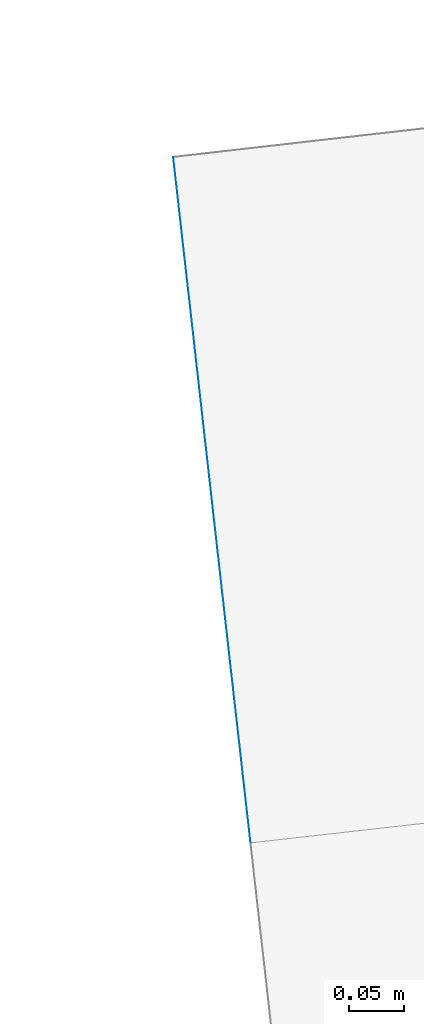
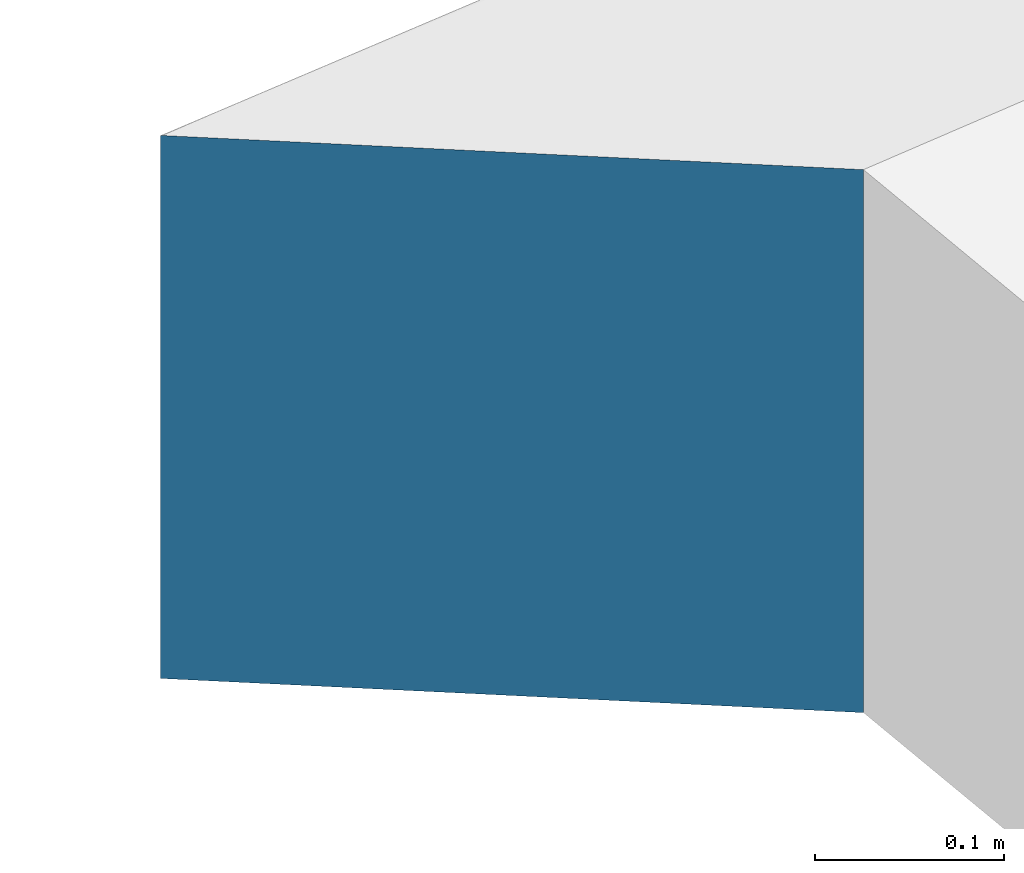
# Not in any storey, part 48 of 57: 2 walls.
"""IFC2X3 building model written with IfcOpenShell, lengths in metres."""

from ifc_helpers import new_model, entity, si_unit, converted_unit, frame, origin, place, context, subcontext, project, spatial, face_set, surface_model, element, save


model = new_model("IFC2X3")

# Units and contexts
model_context = context("Model", 3, precision=1e-05, world=origin())
body_context = subcontext(model_context, "Body", "Model", "MODEL_VIEW")
ifc_project = project(units=[converted_unit("PLANEANGLEUNIT", "DEGREE", entity("IfcRatioMeasure", 0.0174532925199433), si_unit("PLANEANGLEUNIT", "RADIAN"), dimensions=[0, 0, 0, 0, 0, 0, 0]), si_unit("AREAUNIT", "SQUARE_METRE"), si_unit("LENGTHUNIT", "METRE")], contexts=[model_context])

# Site, building
site_placement = place(None, origin())
site = spatial("IfcSite", under=ifc_project, at=site_placement, Name="_site", CompositionType="ELEMENT")
building_placement = place(site_placement, origin())
building = spatial("IfcBuilding", under=site, at=building_placement, Name="_building", CompositionType="ELEMENT")

# Walls
for number, where, name in (
    (1, (0.0, 0.0, 0.0), "Wall"),
    (2, (0.0, 0.0, 0.0), "Wall"),
):
    element("IfcWall", number, at=place(building_placement, frame(where)), inside=building, Name=name, context=body_context, shape_type="SurfaceModel", body=[
        surface_model("IfcFaceBasedSurfaceModel", [(125.57, 139.18, 214.62), (125.5, 139.801, 214.29), (125.5, 139.801, 213.94), (125.57, 139.18, 214.27)], [face_set([[[0, 1, 2, 3]]])]),
    ])

save(model, "model.ifc")
